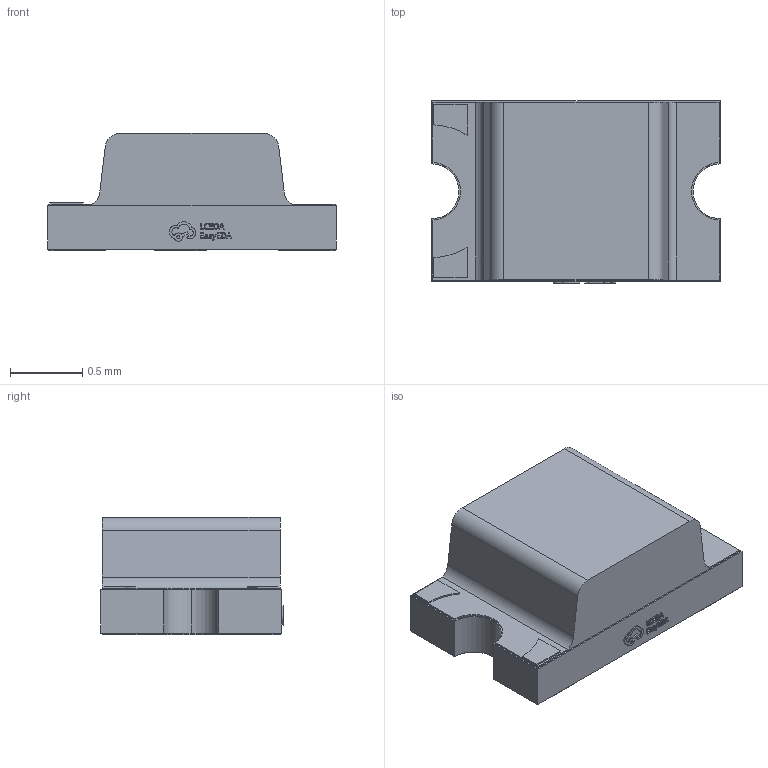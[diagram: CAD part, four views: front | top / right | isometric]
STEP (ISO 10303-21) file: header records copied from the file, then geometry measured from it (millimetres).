
FILE_DESCRIPTION (( 'STEP AP214' ), '1' );
FILE_NAME ('LED0805-RD_PURPLE.step', '2022-07-08T13:31:31', ( '' ), ( '' ), 'SwSTEP 2.0', 'SolidWorks 2020', '' );
FILE_SCHEMA (( 'AUTOMOTIVE_DESIGN' ));
Length unit declared in the file: millimetre
Products named in the file (1): LED0805-RD_PURPLE
Bounding box: 2 x 1.26 x 0.81 mm (x, y, z)
Volume: 1.5 mm3; surface area: 9.2 mm2
Topology: 1 solids, 1 shells, 342 faces, 924 edges, 616 vertices
Faces by surface type: plane 213, bspline 114, cylinder 15
Entity records: 15252 total; most frequent: CARTESIAN_POINT 4245, ORIENTED_EDGE 1848, DIRECTION 1180, EDGE_CURVE 924, LINE 662, VECTOR 662, VERTEX_POINT 616, EDGE_LOOP 374
